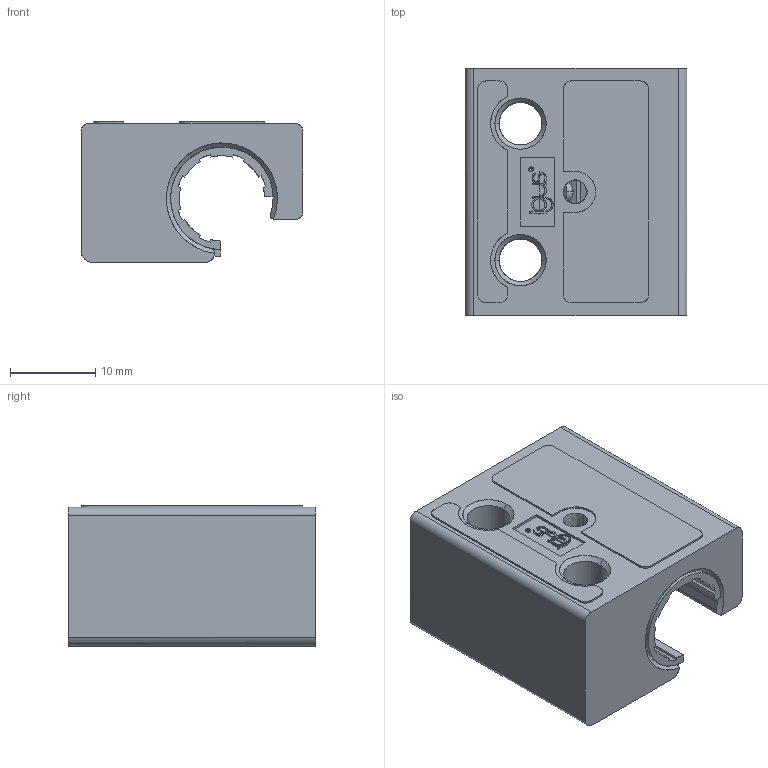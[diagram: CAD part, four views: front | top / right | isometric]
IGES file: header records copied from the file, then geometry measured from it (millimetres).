
Start section: ACIS data in IGES format
Global section: file name: Unknown; native system: ACIS; preprocessor: *IGES writer V5.2; author: unknown author; organization: unknown organization; date: 20100119.195413; units: millimetre
Bounding box: 26 x 29 x 16.5 mm (x, y, z)
Surface area: 5907.3 mm2 (no closed solid volume)
Topology: 0 solids, 0 shells, 259 faces, 1574 edges, 1574 vertices
Faces by surface type: bspline 259
